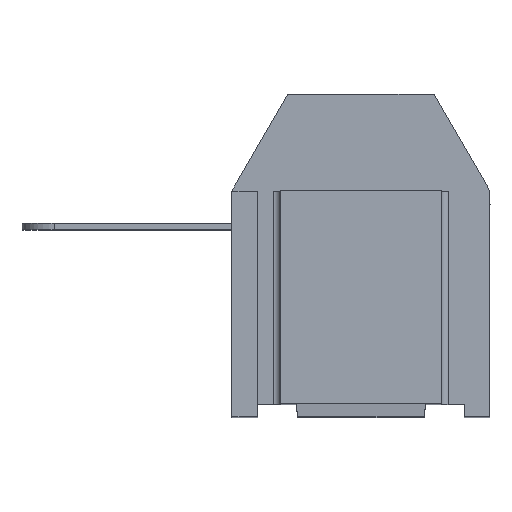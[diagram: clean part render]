
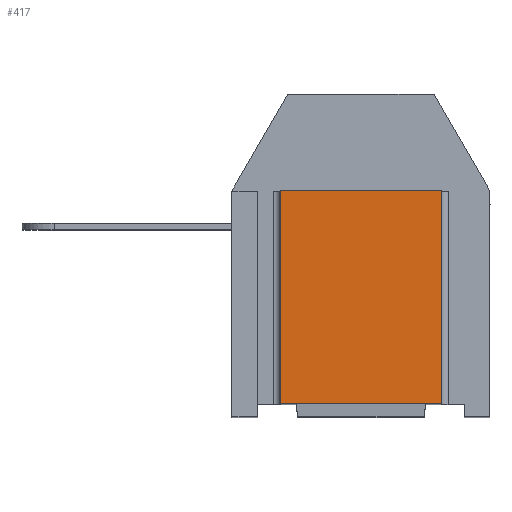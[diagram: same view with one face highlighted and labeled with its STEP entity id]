
A CAD part, top view. The second image highlights one B-rep face of the part: STEP entity #417.
In plain terms, the highlighted planar face has unit normal (0, 0, 1).
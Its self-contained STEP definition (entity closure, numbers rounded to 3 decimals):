
#356 = VERTEX_POINT ( 'NONE', #2771 ) ;
#358 = EDGE_CURVE ( 'NONE', #356, #359, #2770, .T. ) ;
#359 = VERTEX_POINT ( 'NONE', #2827 ) ;
#397 = ORIENTED_EDGE ( 'NONE', *, *, #398, .T. ) ;
#398 = EDGE_CURVE ( 'NONE', #356, #421, #2886, .T. ) ;
#417 = ADVANCED_FACE ( 'NONE', ( #2914 ), #2913, .F. ) ;
#418 = EDGE_LOOP ( 'NONE', ( #419, #423, #5687, #397 ) ) ;
#419 = ORIENTED_EDGE ( 'NONE', *, *, #420, .T. ) ;
#420 = EDGE_CURVE ( 'NONE', #421, #422, #2908, .T. ) ;
#421 = VERTEX_POINT ( 'NONE', #2904 ) ;
#422 = VERTEX_POINT ( 'NONE', #2903 ) ;
#423 = ORIENTED_EDGE ( 'NONE', *, *, #424, .T. ) ;
#424 = EDGE_CURVE ( 'NONE', #422, #359, #2902, .T. ) ;
#2767 = DIRECTION ( 'NONE',  ( 0., -1., 0. ) ) ;
#2768 = VECTOR ( 'NONE', #2767, 1000. ) ;
#2769 = CARTESIAN_POINT ( 'NONE',  ( -1.091, -0.048, 0. ) ) ;
#2770 = LINE ( 'NONE', #2769, #2768 ) ;
#2771 = CARTESIAN_POINT ( 'NONE',  ( -1.091, 3.252, 0. ) ) ;
#2827 = CARTESIAN_POINT ( 'NONE',  ( -1.091, -3.348, 0. ) ) ;
#2883 = DIRECTION ( 'NONE',  ( -1., 0., 0. ) ) ;
#2884 = VECTOR ( 'NONE', #2883, 1000. ) ;
#2885 = CARTESIAN_POINT ( 'NONE',  ( -3.591, 3.252, 0. ) ) ;
#2886 = LINE ( 'NONE', #2885, #2884 ) ;
#2899 = DIRECTION ( 'NONE',  ( 1., 0., 0. ) ) ;
#2900 = VECTOR ( 'NONE', #2899, 1000. ) ;
#2901 = CARTESIAN_POINT ( 'NONE',  ( -3.591, -3.348, 0. ) ) ;
#2902 = LINE ( 'NONE', #2901, #2900 ) ;
#2903 = CARTESIAN_POINT ( 'NONE',  ( -6.091, -3.348, 0. ) ) ;
#2904 = CARTESIAN_POINT ( 'NONE',  ( -6.091, 3.252, 0. ) ) ;
#2905 = DIRECTION ( 'NONE',  ( 0., -1., 0. ) ) ;
#2906 = VECTOR ( 'NONE', #2905, 1000. ) ;
#2907 = CARTESIAN_POINT ( 'NONE',  ( -6.091, -0.048, 0. ) ) ;
#2908 = LINE ( 'NONE', #2907, #2906 ) ;
#2909 = DIRECTION ( 'NONE',  ( -1., 0., 0. ) ) ;
#2910 = DIRECTION ( 'NONE',  ( 0., 0., -1. ) ) ;
#2911 = CARTESIAN_POINT ( 'NONE',  ( -1.091, -3.348, 0. ) ) ;
#2912 = AXIS2_PLACEMENT_3D ( 'NONE', #2911, #2910, #2909 ) ;
#2913 = PLANE ( 'NONE',  #2912 ) ;
#2914 = FACE_OUTER_BOUND ( 'NONE', #418, .T. ) ;
#5687 = ORIENTED_EDGE ( 'NONE', *, *, #358, .F. ) ;
